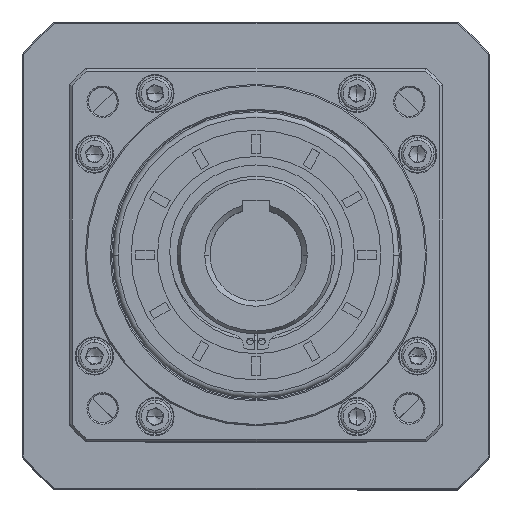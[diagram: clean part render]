
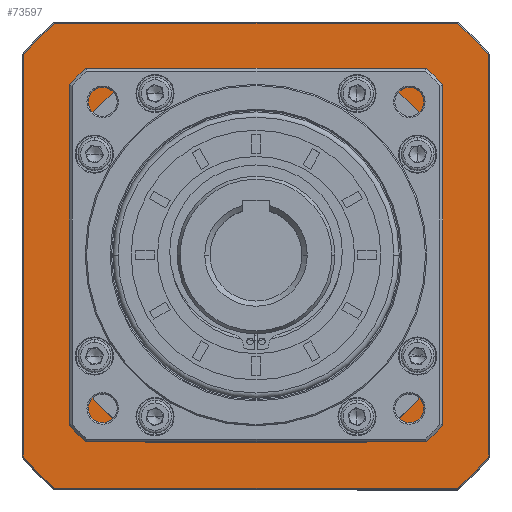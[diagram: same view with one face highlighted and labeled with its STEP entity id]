
A CAD part, top view. The second image highlights one B-rep face of the part: STEP entity #73597.
In plain terms, the highlighted planar face has unit normal (0, 0, 1).
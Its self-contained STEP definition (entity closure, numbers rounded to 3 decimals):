
#481 = AXIS2_PLACEMENT_3D ( 'NONE', #89050, #13423, #98558 ) ;
#2081 = EDGE_CURVE ( 'NONE', #38791, #15005, #122499, .T. ) ;
#2773 = CIRCLE ( 'NONE', #51041, 82. ) ;
#2774 = ORIENTED_EDGE ( 'NONE', *, *, #59051, .F. ) ;
#2864 = DIRECTION ( 'NONE',  ( 0., 0., -1. ) ) ;
#3203 = VERTEX_POINT ( 'NONE', #43274 ) ;
#4409 = VECTOR ( 'NONE', #12409, 1000. ) ;
#4541 = ORIENTED_EDGE ( 'NONE', *, *, #79210, .F. ) ;
#4683 = CARTESIAN_POINT ( 'NONE',  ( 143.323, 128.36, 9.55 ) ) ;
#5877 = VERTEX_POINT ( 'NONE', #16982 ) ;
#6721 = EDGE_CURVE ( 'NONE', #118461, #118893, #114665, .T. ) ;
#8983 = AXIS2_PLACEMENT_3D ( 'NONE', #80238, #60360, #51716 ) ;
#9927 = VERTEX_POINT ( 'NONE', #90067 ) ;
#11627 = CARTESIAN_POINT ( 'NONE',  ( 143.323, 39.86, 9.55 ) ) ;
#12409 = DIRECTION ( 'NONE',  ( 0., -1., 0. ) ) ;
#12846 = VERTEX_POINT ( 'NONE', #112569 ) ;
#12851 = CARTESIAN_POINT ( 'NONE',  ( 143.323, 216.86, 9.55 ) ) ;
#13272 = ORIENTED_EDGE ( 'NONE', *, *, #28857, .F. ) ;
#13423 = DIRECTION ( 'NONE',  ( 0., 0., -1. ) ) ;
#13424 = DIRECTION ( 'NONE',  ( -1., 0., 0. ) ) ;
#13595 = CIRCLE ( 'NONE', #8983, 82. ) ;
#14117 = VECTOR ( 'NONE', #80242, 1000. ) ;
#14567 = VECTOR ( 'NONE', #88099, 1000. ) ;
#15005 = VERTEX_POINT ( 'NONE', #86820 ) ;
#15793 = CIRCLE ( 'NONE', #98410, 117. ) ;
#16406 = CARTESIAN_POINT ( 'NONE',  ( 231.823, 204.89, 9.55 ) ) ;
#16982 = CARTESIAN_POINT ( 'NONE',  ( 66.794, 216.86, 9.55 ) ) ;
#17807 = VECTOR ( 'NONE', #51644, 1000. ) ;
#21951 = DIRECTION ( 'NONE',  ( 0., 1., 0. ) ) ;
#22963 = DIRECTION ( 'NONE',  ( 0., 0., 1. ) ) ;
#23383 = VERTEX_POINT ( 'NONE', #60742 ) ;
#24208 = DIRECTION ( 'NONE',  ( 0., 0., -1. ) ) ;
#24524 = FACE_OUTER_BOUND ( 'NONE', #41079, .T. ) ;
#24820 = CARTESIAN_POINT ( 'NONE',  ( 54.823, 204.89, 9.55 ) ) ;
#25669 = LINE ( 'NONE', #12851, #65490 ) ;
#28776 = CARTESIAN_POINT ( 'NONE',  ( 72.823, 170.238, 9.55 ) ) ;
#28857 = EDGE_CURVE ( 'NONE', #118893, #9927, #62049, .T. ) ;
#28913 = CARTESIAN_POINT ( 'NONE',  ( 213.823, 170.238, 9.55 ) ) ;
#30581 = EDGE_CURVE ( 'NONE', #15005, #31019, #31137, .T. ) ;
#30932 = CARTESIAN_POINT ( 'NONE',  ( 214.323, 57.86, 9.55 ) ) ;
#31019 = VERTEX_POINT ( 'NONE', #28913 ) ;
#31137 = LINE ( 'NONE', #117762, #17807 ) ;
#31151 = AXIS2_PLACEMENT_3D ( 'NONE', #106462, #69608, #13424 ) ;
#31193 = ORIENTED_EDGE ( 'NONE', *, *, #2081, .F. ) ;
#31786 = EDGE_CURVE ( 'NONE', #41425, #5877, #95729, .T. ) ;
#32969 = LINE ( 'NONE', #48902, #35922 ) ;
#33679 = DIRECTION ( 'NONE',  ( -1., 0., 0. ) ) ;
#35350 = DIRECTION ( 'NONE',  ( -1., 0., 0. ) ) ;
#35922 = VECTOR ( 'NONE', #106321, 1000. ) ;
#38791 = VERTEX_POINT ( 'NONE', #112612 ) ;
#40194 = DIRECTION ( 'NONE',  ( 1., 0., 0. ) ) ;
#40490 = ORIENTED_EDGE ( 'NONE', *, *, #85716, .F. ) ;
#40782 = DIRECTION ( 'NONE',  ( 1., 0., 0. ) ) ;
#40841 = EDGE_CURVE ( 'NONE', #105430, #86252, #106279, .T. ) ;
#41079 = EDGE_LOOP ( 'NONE', ( #2774, #40490, #13272, #49438, #51296, #75068, #4541, #54139 ) ) ;
#41246 = EDGE_CURVE ( 'NONE', #103390, #119735, #15793, .T. ) ;
#41425 = VERTEX_POINT ( 'NONE', #24820 ) ;
#42771 = CARTESIAN_POINT ( 'NONE',  ( 143.323, 128.36, 9.55 ) ) ;
#43274 = CARTESIAN_POINT ( 'NONE',  ( 219.853, 39.86, 9.55 ) ) ;
#46337 = DIRECTION ( 'NONE',  ( 0., 0., 1. ) ) ;
#46641 = FACE_BOUND ( 'NONE', #106911, .T. ) ;
#48614 = EDGE_CURVE ( 'NONE', #23383, #38791, #67371, .T. ) ;
#48902 = CARTESIAN_POINT ( 'NONE',  ( 54.823, 128.36, 9.55 ) ) ;
#49438 = ORIENTED_EDGE ( 'NONE', *, *, #6721, .F. ) ;
#50913 = VECTOR ( 'NONE', #78988, 1000. ) ;
#51041 = AXIS2_PLACEMENT_3D ( 'NONE', #121519, #46337, #112438 ) ;
#51296 = ORIENTED_EDGE ( 'NONE', *, *, #82292, .F. ) ;
#51644 = DIRECTION ( 'NONE',  ( 0., 1., 0. ) ) ;
#51716 = DIRECTION ( 'NONE',  ( 1., 0., 0. ) ) ;
#53100 = PLANE ( 'NONE',  #99520 ) ;
#53910 = DIRECTION ( 'NONE',  ( 0., 0., -1. ) ) ;
#54139 = ORIENTED_EDGE ( 'NONE', *, *, #41246, .F. ) ;
#54502 = CARTESIAN_POINT ( 'NONE',  ( 143.323, 128.36, 9.55 ) ) ;
#55273 = ORIENTED_EDGE ( 'NONE', *, *, #89346, .F. ) ;
#59051 = EDGE_CURVE ( 'NONE', #3203, #103390, #114476, .T. ) ;
#60360 = DIRECTION ( 'NONE',  ( 0., 0., 1. ) ) ;
#60742 = CARTESIAN_POINT ( 'NONE',  ( 101.446, 57.86, 9.55 ) ) ;
#61466 = VECTOR ( 'NONE', #86690, 1000. ) ;
#62049 = LINE ( 'NONE', #78941, #4409 ) ;
#62061 = ORIENTED_EDGE ( 'NONE', *, *, #48614, .F. ) ;
#65490 = VECTOR ( 'NONE', #40194, 1000. ) ;
#67371 = LINE ( 'NONE', #30932, #61466 ) ;
#69233 = VERTEX_POINT ( 'NONE', #112012 ) ;
#69608 = DIRECTION ( 'NONE',  ( 0., 0., -1. ) ) ;
#72115 = EDGE_CURVE ( 'NONE', #86252, #23383, #2773, .T. ) ;
#73597 = ADVANCED_FACE ( 'NONE', ( #24524, #46641 ), #53100, .F. ) ;
#74781 = DIRECTION ( 'NONE',  ( 0., -1., 0. ) ) ;
#75068 = ORIENTED_EDGE ( 'NONE', *, *, #31786, .F. ) ;
#75648 = ORIENTED_EDGE ( 'NONE', *, *, #72115, .F. ) ;
#77697 = ORIENTED_EDGE ( 'NONE', *, *, #79373, .F. ) ;
#78512 = CARTESIAN_POINT ( 'NONE',  ( 143.323, 128.36, 9.55 ) ) ;
#78941 = CARTESIAN_POINT ( 'NONE',  ( 231.823, 128.36, 9.55 ) ) ;
#78988 = DIRECTION ( 'NONE',  ( -1., 0., 0. ) ) ;
#79210 = EDGE_CURVE ( 'NONE', #119735, #41425, #32969, .T. ) ;
#79373 = EDGE_CURVE ( 'NONE', #69233, #105430, #13595, .T. ) ;
#80238 = CARTESIAN_POINT ( 'NONE',  ( 143.323, 128.36, 9.55 ) ) ;
#80242 = DIRECTION ( 'NONE',  ( -1., 0., 0. ) ) ;
#82292 = EDGE_CURVE ( 'NONE', #5877, #118461, #25669, .T. ) ;
#82643 = AXIS2_PLACEMENT_3D ( 'NONE', #42771, #24208, #33679 ) ;
#83461 = DIRECTION ( 'NONE',  ( 0., 0., 1. ) ) ;
#85716 = EDGE_CURVE ( 'NONE', #9927, #3203, #117249, .T. ) ;
#86252 = VERTEX_POINT ( 'NONE', #98006 ) ;
#86690 = DIRECTION ( 'NONE',  ( 1., 0., 0. ) ) ;
#86820 = CARTESIAN_POINT ( 'NONE',  ( 213.823, 86.483, 9.55 ) ) ;
#87735 = EDGE_CURVE ( 'NONE', #12846, #69233, #114725, .T. ) ;
#88099 = DIRECTION ( 'NONE',  ( 0., -1., 0. ) ) ;
#89050 = CARTESIAN_POINT ( 'NONE',  ( 143.323, 128.36, 9.55 ) ) ;
#89346 = EDGE_CURVE ( 'NONE', #31019, #12846, #119932, .T. ) ;
#90067 = CARTESIAN_POINT ( 'NONE',  ( 231.823, 51.831, 9.55 ) ) ;
#91374 = AXIS2_PLACEMENT_3D ( 'NONE', #4683, #22963, #40782 ) ;
#92639 = AXIS2_PLACEMENT_3D ( 'NONE', #54502, #83461, #74781 ) ;
#95729 = CIRCLE ( 'NONE', #481, 117. ) ;
#98006 = CARTESIAN_POINT ( 'NONE',  ( 72.823, 86.483, 9.55 ) ) ;
#98410 = AXIS2_PLACEMENT_3D ( 'NONE', #78512, #2864, #21951 ) ;
#98558 = DIRECTION ( 'NONE',  ( -1., 0., 0. ) ) ;
#99520 = AXIS2_PLACEMENT_3D ( 'NONE', #120485, #53910, #35350 ) ;
#103390 = VERTEX_POINT ( 'NONE', #118220 ) ;
#105430 = VERTEX_POINT ( 'NONE', #28776 ) ;
#106279 = LINE ( 'NONE', #115796, #14567 ) ;
#106321 = DIRECTION ( 'NONE',  ( 0., 1., 0. ) ) ;
#106462 = CARTESIAN_POINT ( 'NONE',  ( 143.323, 128.36, 9.55 ) ) ;
#106911 = EDGE_LOOP ( 'NONE', ( #55273, #115472, #31193, #62061, #75648, #115519, #77697, #116909 ) ) ;
#107527 = CARTESIAN_POINT ( 'NONE',  ( 214.323, 198.86, 9.55 ) ) ;
#110444 = CARTESIAN_POINT ( 'NONE',  ( 54.823, 51.831, 9.55 ) ) ;
#111612 = CARTESIAN_POINT ( 'NONE',  ( 219.853, 216.86, 9.55 ) ) ;
#112012 = CARTESIAN_POINT ( 'NONE',  ( 101.446, 198.86, 9.55 ) ) ;
#112438 = DIRECTION ( 'NONE',  ( 0., -1., 0. ) ) ;
#112569 = CARTESIAN_POINT ( 'NONE',  ( 185.201, 198.86, 9.55 ) ) ;
#112612 = CARTESIAN_POINT ( 'NONE',  ( 185.201, 57.86, 9.55 ) ) ;
#114476 = LINE ( 'NONE', #11627, #50913 ) ;
#114665 = CIRCLE ( 'NONE', #31151, 117. ) ;
#114725 = LINE ( 'NONE', #107527, #14117 ) ;
#115472 = ORIENTED_EDGE ( 'NONE', *, *, #30581, .F. ) ;
#115519 = ORIENTED_EDGE ( 'NONE', *, *, #40841, .F. ) ;
#115796 = CARTESIAN_POINT ( 'NONE',  ( 72.823, 57.36, 9.55 ) ) ;
#116909 = ORIENTED_EDGE ( 'NONE', *, *, #87735, .F. ) ;
#117249 = CIRCLE ( 'NONE', #82643, 117. ) ;
#117762 = CARTESIAN_POINT ( 'NONE',  ( 213.823, 57.36, 9.55 ) ) ;
#118220 = CARTESIAN_POINT ( 'NONE',  ( 66.794, 39.86, 9.55 ) ) ;
#118461 = VERTEX_POINT ( 'NONE', #111612 ) ;
#118893 = VERTEX_POINT ( 'NONE', #16406 ) ;
#119735 = VERTEX_POINT ( 'NONE', #110444 ) ;
#119932 = CIRCLE ( 'NONE', #92639, 82. ) ;
#120485 = CARTESIAN_POINT ( 'NONE',  ( 143.323, 128.36, 9.55 ) ) ;
#121519 = CARTESIAN_POINT ( 'NONE',  ( 143.323, 128.36, 9.55 ) ) ;
#122499 = CIRCLE ( 'NONE', #91374, 82. ) ;
